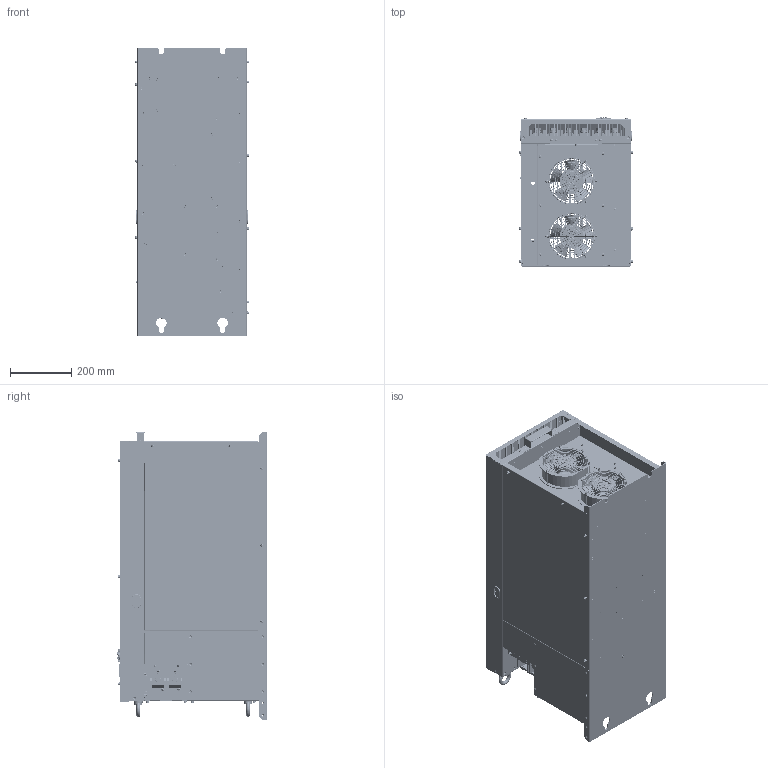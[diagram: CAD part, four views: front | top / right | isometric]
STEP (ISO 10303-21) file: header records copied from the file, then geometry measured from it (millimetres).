
FILE_DESCRIPTION(/* description */ (''),/* implementation_level */ '2;1');
FILE_NAME(/* name */ 'C:\Users\U390257\OneDrive - Danfoss\Documents\Работа\Текущие задачи\2022.04.26 Veichi 3D\Готовые модели\ac300-t3-185_220-3d\ac300-t3-185_220-3d.stp',/* time_stamp */ '2022-04-28T12:32:24+03:00',/* author */ ('U390257'),/* organization */ (''),/* preprocessor_version */ 'ST-DEVELOPER v18.1',/* originating_system */ 'Autodesk Inventor 2020',/* authorisation */ '');
FILE_SCHEMA (('AUTOMOTIVE_DESIGN { 1 0 10303 214 3 1 1 }'));
Products named in the file (32): ac300-t3-185_220-3d; AC300-T3-220G-D_ASM; AC300-T3-220G-P_ASM; AC300-T3-220G-P013_ASM; ASM0001_ASM; AC300-T3-220G-A_ASM; AC300-T3-220G-M001; AC300-T3-220G-0S_ASM; 24_VC0000000008-P0001; M5X14_GB9074_8; M6X20_GB9074_8; M5X12_GB9074_8; M4X60_GB9074_8; M6X14_GB9074_8; M8X16_GB9074_13; M12_GB97_1; M12_GB93_87; M12X25_GB5783; M6X16_GB9074_8; M4X10_GB819_1; M3X8_GB9074_8; M5X12_GB9074_13; M4X10_GB9074_8; PF_M4X5; koleso_display; VEDAVFD; tablichka_gc_v_a_2; display_2; knopka_pusk; knopka_stop; knopka_prg2; knopka_jog_rev
Assembly tree (399 placements, depth 3):
  ac300-t3-185_220-3d
    AC300-T3-220G-D_ASM
    AC300-T3-220G-P_ASM
      AC300-T3-220G-P013_ASM
      ASM0001_ASM
    AC300-T3-220G-A_ASM
    AC300-T3-220G-M001
    AC300-T3-220G-0S_ASM
      M5X14_GB9074_8  x70
      M6X20_GB9074_8  x36
      M8X16_GB9074_13  x17
      M4X10_GB9074_8  x49
      M5X12_GB9074_8  x44
      24_VC0000000008-P0001  x2
      M6X16_GB9074_8  x66
      M6X14_GB9074_8  x25
      M3X8_GB9074_8  x23
      M12_GB97_1  x8
      M12_GB93_87  x8
      M4X60_GB9074_8  x8
      M12X25_GB5783  x8
      M4X10_GB819_1  x4
      M5X12_GB9074_13  x6
      PF_M4X5  x10
    koleso_display
    VEDAVFD
    tablichka_gc_v_a_2
    display_2
      knopka_pusk
      knopka_stop
      knopka_prg2
      knopka_jog_rev
Bounding box: 371.47 x 487.87 x 940 mm (x, y, z)
Volume: 6665141.2 mm3; surface area: 7112335.5 mm2
Topology: 646 solids, 1027 shells, 31398 faces, 83593 edges, 56249 vertices
Faces by surface type: plane 22430, cylinder 4953, bspline 2320, cone 657, torus 576, sphere 462
Full cylindrical faces by diameter (mm): 0.5 x494, 0.8 x30, 0.9 x8, 1 x30, 1.08 x1, 1.5 x4, 1.8 x4, 2 x16, 2.2 x12, 2.5 x73, 2.6 x6, 3 x38, 3.2 x1, 3.3 x11, 3.5 x58, 3.6 x50, 3.8 x20, 4 x169, 4.2 x153, 4.39 x7, 4.5 x151, 4.99 x14, 5 x261, 5.38 x50, 5.39 x24, 5.4 x95, 5.5 x25, 5.79 x2, 5.9 x54, 6 x174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
Entity records: 774272 total; most frequent: CARTESIAN_POINT 195173, ORIENTED_EDGE 120697, DIRECTION 112424, EDGE_CURVE 60377, LINE 43432, VECTOR 43432, VERTEX_POINT 40088, AXIS2_PLACEMENT_3D 34496
